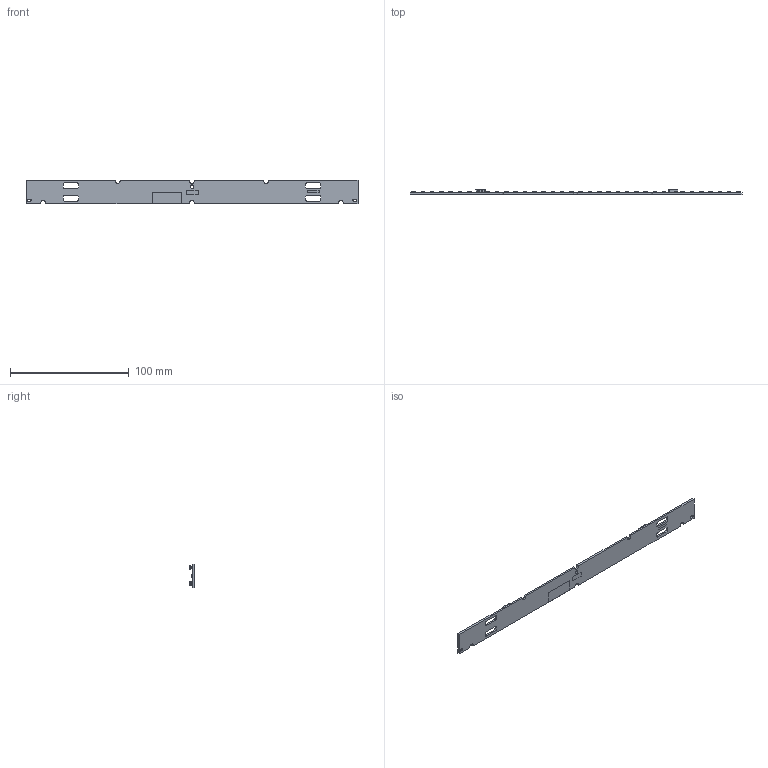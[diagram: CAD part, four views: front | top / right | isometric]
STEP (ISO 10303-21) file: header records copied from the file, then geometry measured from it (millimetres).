
FILE_DESCRIPTION((''),'2;1');
FILE_NAME('WU-M-643-STC_3D-MODEL_ASM','2020-05-06T11:28:18',('msavic'),(''),'CREO PARAMETRIC BY PTC INC, 2016510','CREO PARAMETRIC BY PTC INC, 2016510','');
FILE_SCHEMA(('AUTOMOTIVE_DESIGN { 1 0 10303 214 1 1 1 1 }'));
Products named in the file (19): 1234567A_20; ASM0003_ASM_2_ASM; MCU_0805_1; PRT0003_7777777777777_11; PRT0003_444444444444444_12; DIODA_1; STW8C2PB-E1_2; 2065-101_998-403_2; CE-ZEICHEN-6MM_2_4; CE-ZEICHEN-6MM001_2_4; VSO-LOGO-5MM_3_3; VSO-LOGO-5MM001_2_1_3; BUILT-IN_LED_MODULE-5MM004_2_2; BUILT-IN_LED_MODULE-5MM003_2_2; BUILT-IN_LED_MODULE-5MM002_2_2; BUILT-IN_LED_MODULE-5MM001_2_2; TXTWUM_10; ASM0004_ASM_29_ASM; WU-M-643-STC_3D-MODEL_ASM
Assembly tree (59 placements, depth 4):
  WU-M-643-STC_3D-MODEL_ASM
    ASM0004_ASM_29_ASM
      ASM0003_ASM_2_ASM
        1234567A_20
      MCU_0805_1  x4
      PRT0003_7777777777777_11
      PRT0003_444444444444444_12
      DIODA_1  x18
      STW8C2PB-E1_2  x18
      2065-101_998-403_2  x4
      CE-ZEICHEN-6MM_2_4
      CE-ZEICHEN-6MM001_2_4
      VSO-LOGO-5MM_3_3
      VSO-LOGO-5MM001_2_1_3
      BUILT-IN_LED_MODULE-5MM004_2_2
      BUILT-IN_LED_MODULE-5MM003_2_2
      BUILT-IN_LED_MODULE-5MM002_2_2
      BUILT-IN_LED_MODULE-5MM001_2_2  x2
      TXTWUM_10
Bounding box: 279 x 4.3 x 20 mm (x, y, z)
Volume: 9201.3 mm3; surface area: 14269.8 mm2
Topology: 57 solids, 57 shells, 5605 faces, 16265 edges, 11230 vertices
Faces by surface type: plane 5242, cylinder 353, extrusion 10
Entity records: 125976 total; most frequent: CARTESIAN_POINT 22692, ORIENTED_EDGE 21442, DIRECTION 18506, EDGE_CURVE 10721, VECTOR 10224, LINE 10214, VERTEX_POINT 7177, AXIS2_PLACEMENT_3D 4141
